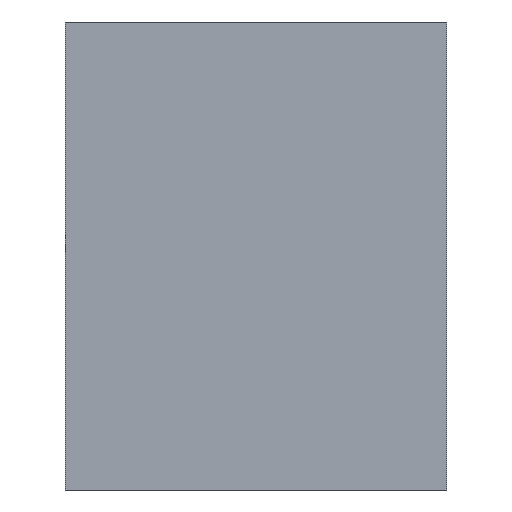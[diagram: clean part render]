
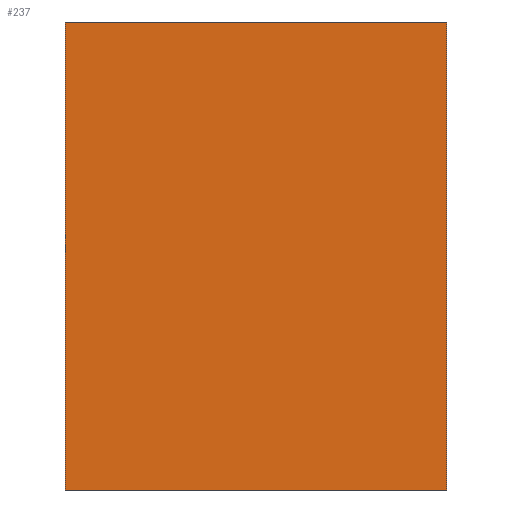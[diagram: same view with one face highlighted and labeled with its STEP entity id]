
A CAD part, front view. The second image highlights one B-rep face of the part: STEP entity #237.
In plain terms, the highlighted planar face has unit normal (0, -1, 0).
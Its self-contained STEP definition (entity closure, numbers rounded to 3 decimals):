
#21 = EDGE_CURVE('',#22,#24,#26,.T.);
#22 = VERTEX_POINT('',#23);
#23 = CARTESIAN_POINT('',(-28.7,-30.99,-21.287));
#24 = VERTEX_POINT('',#25);
#25 = CARTESIAN_POINT('',(-28.7,-30.99,-16.137));
#26 = SURFACE_CURVE('',#27,(#31,#43),.PCURVE_S1.);
#27 = LINE('',#28,#29);
#28 = CARTESIAN_POINT('',(-28.7,-30.99,-21.287));
#29 = VECTOR('',#30,1.);
#30 = DIRECTION('',(0.,0.,1.));
#31 = PCURVE('',#32,#37);
#32 = PLANE('',#33);
#33 = AXIS2_PLACEMENT_3D('',#34,#35,#36);
#34 = CARTESIAN_POINT('',(-28.7,-30.99,-21.287));
#35 = DIRECTION('',(1.,0.,-0.));
#36 = DIRECTION('',(0.,0.,1.));
#37 = DEFINITIONAL_REPRESENTATION('',(#38),#42);
#38 = LINE('',#39,#40);
#39 = CARTESIAN_POINT('',(0.,0.));
#40 = VECTOR('',#41,1.);
#41 = DIRECTION('',(1.,0.));
#42 = ( GEOMETRIC_REPRESENTATION_CONTEXT(2) 
PARAMETRIC_REPRESENTATION_CONTEXT() REPRESENTATION_CONTEXT('2D SPACE',''
  ) );
#43 = PCURVE('',#44,#49);
#44 = PLANE('',#45);
#45 = AXIS2_PLACEMENT_3D('',#46,#47,#48);
#46 = CARTESIAN_POINT('',(-28.7,-30.99,-21.287));
#47 = DIRECTION('',(-0.,1.,0.));
#48 = DIRECTION('',(0.,0.,1.));
#49 = DEFINITIONAL_REPRESENTATION('',(#50),#54);
#50 = LINE('',#51,#52);
#51 = CARTESIAN_POINT('',(0.,0.));
#52 = VECTOR('',#53,1.);
#53 = DIRECTION('',(1.,0.));
#54 = ( GEOMETRIC_REPRESENTATION_CONTEXT(2) 
PARAMETRIC_REPRESENTATION_CONTEXT() REPRESENTATION_CONTEXT('2D SPACE',''
  ) );
#72 = PLANE('',#73);
#73 = AXIS2_PLACEMENT_3D('',#74,#75,#76);
#74 = CARTESIAN_POINT('',(-28.7,-30.99,-21.287));
#75 = DIRECTION('',(0.,0.,1.));
#76 = DIRECTION('',(1.,0.,-0.));
#126 = PLANE('',#127);
#127 = AXIS2_PLACEMENT_3D('',#128,#129,#130);
#128 = CARTESIAN_POINT('',(-28.7,-30.99,-16.137));
#129 = DIRECTION('',(0.,0.,1.));
#130 = DIRECTION('',(1.,0.,-0.));
#141 = EDGE_CURVE('',#142,#144,#146,.T.);
#142 = VERTEX_POINT('',#143);
#143 = CARTESIAN_POINT('',(-24.5,-30.99,-21.287));
#144 = VERTEX_POINT('',#145);
#145 = CARTESIAN_POINT('',(-24.5,-30.99,-16.137));
#146 = SURFACE_CURVE('',#147,(#151,#163),.PCURVE_S1.);
#147 = LINE('',#148,#149);
#148 = CARTESIAN_POINT('',(-24.5,-30.99,-21.287));
#149 = VECTOR('',#150,1.);
#150 = DIRECTION('',(0.,0.,1.));
#151 = PCURVE('',#152,#157);
#152 = PLANE('',#153);
#153 = AXIS2_PLACEMENT_3D('',#154,#155,#156);
#154 = CARTESIAN_POINT('',(-24.5,-30.99,-21.287));
#155 = DIRECTION('',(1.,0.,-0.));
#156 = DIRECTION('',(0.,0.,1.));
#157 = DEFINITIONAL_REPRESENTATION('',(#158),#162);
#158 = LINE('',#159,#160);
#159 = CARTESIAN_POINT('',(0.,0.));
#160 = VECTOR('',#161,1.);
#161 = DIRECTION('',(1.,0.));
#162 = ( GEOMETRIC_REPRESENTATION_CONTEXT(2) 
PARAMETRIC_REPRESENTATION_CONTEXT() REPRESENTATION_CONTEXT('2D SPACE',''
  ) );
#163 = PCURVE('',#44,#164);
#164 = DEFINITIONAL_REPRESENTATION('',(#165),#169);
#165 = LINE('',#166,#167);
#166 = CARTESIAN_POINT('',(0.,4.2));
#167 = VECTOR('',#168,1.);
#168 = DIRECTION('',(1.,0.));
#169 = ( GEOMETRIC_REPRESENTATION_CONTEXT(2) 
PARAMETRIC_REPRESENTATION_CONTEXT() REPRESENTATION_CONTEXT('2D SPACE',''
  ) );
#237 = ADVANCED_FACE('',(#238),#44,.F.);
#238 = FACE_BOUND('',#239,.F.);
#239 = EDGE_LOOP('',(#240,#261,#262,#283));
#240 = ORIENTED_EDGE('',*,*,#241,.F.);
#241 = EDGE_CURVE('',#22,#142,#242,.T.);
#242 = SURFACE_CURVE('',#243,(#247,#254),.PCURVE_S1.);
#243 = LINE('',#244,#245);
#244 = CARTESIAN_POINT('',(-28.7,-30.99,-21.287));
#245 = VECTOR('',#246,1.);
#246 = DIRECTION('',(1.,0.,-0.));
#247 = PCURVE('',#44,#248);
#248 = DEFINITIONAL_REPRESENTATION('',(#249),#253);
#249 = LINE('',#250,#251);
#250 = CARTESIAN_POINT('',(0.,0.));
#251 = VECTOR('',#252,1.);
#252 = DIRECTION('',(0.,1.));
#253 = ( GEOMETRIC_REPRESENTATION_CONTEXT(2) 
PARAMETRIC_REPRESENTATION_CONTEXT() REPRESENTATION_CONTEXT('2D SPACE',''
  ) );
#254 = PCURVE('',#72,#255);
#255 = DEFINITIONAL_REPRESENTATION('',(#256),#260);
#256 = LINE('',#257,#258);
#257 = CARTESIAN_POINT('',(0.,0.));
#258 = VECTOR('',#259,1.);
#259 = DIRECTION('',(1.,0.));
#260 = ( GEOMETRIC_REPRESENTATION_CONTEXT(2) 
PARAMETRIC_REPRESENTATION_CONTEXT() REPRESENTATION_CONTEXT('2D SPACE',''
  ) );
#261 = ORIENTED_EDGE('',*,*,#21,.T.);
#262 = ORIENTED_EDGE('',*,*,#263,.T.);
#263 = EDGE_CURVE('',#24,#144,#264,.T.);
#264 = SURFACE_CURVE('',#265,(#269,#276),.PCURVE_S1.);
#265 = LINE('',#266,#267);
#266 = CARTESIAN_POINT('',(-28.7,-30.99,-16.137));
#267 = VECTOR('',#268,1.);
#268 = DIRECTION('',(1.,0.,-0.));
#269 = PCURVE('',#44,#270);
#270 = DEFINITIONAL_REPRESENTATION('',(#271),#275);
#271 = LINE('',#272,#273);
#272 = CARTESIAN_POINT('',(5.15,0.));
#273 = VECTOR('',#274,1.);
#274 = DIRECTION('',(0.,1.));
#275 = ( GEOMETRIC_REPRESENTATION_CONTEXT(2) 
PARAMETRIC_REPRESENTATION_CONTEXT() REPRESENTATION_CONTEXT('2D SPACE',''
  ) );
#276 = PCURVE('',#126,#277);
#277 = DEFINITIONAL_REPRESENTATION('',(#278),#282);
#278 = LINE('',#279,#280);
#279 = CARTESIAN_POINT('',(0.,0.));
#280 = VECTOR('',#281,1.);
#281 = DIRECTION('',(1.,0.));
#282 = ( GEOMETRIC_REPRESENTATION_CONTEXT(2) 
PARAMETRIC_REPRESENTATION_CONTEXT() REPRESENTATION_CONTEXT('2D SPACE',''
  ) );
#283 = ORIENTED_EDGE('',*,*,#141,.F.);
